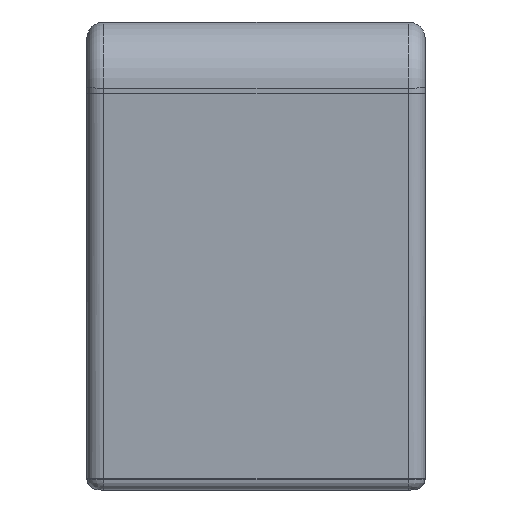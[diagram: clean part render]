
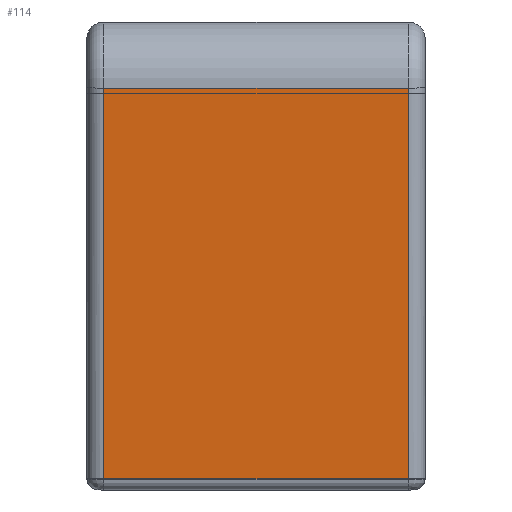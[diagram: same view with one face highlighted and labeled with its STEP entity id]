
A CAD part, left-side view. The second image highlights one B-rep face of the part: STEP entity #114.
In plain terms, the highlighted planar face has unit normal (-0.998, 0, -0.067).
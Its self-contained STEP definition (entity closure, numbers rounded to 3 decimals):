
#114 = ADVANCED_FACE ( 'NONE', ( #1111 ), #4128, .T. ) ;
#232 = AXIS2_PLACEMENT_3D ( 'NONE', #4129, #4130, #4131 ) ;
#484 = EDGE_CURVE ( 'NONE', #3369, #3370, #4890, .T. ) ;
#485 = EDGE_CURVE ( 'NONE', #3370, #3376, #4892, .T. ) ;
#486 = EDGE_CURVE ( 'NONE', #3376, #3375, #4894, .T. ) ;
#487 = EDGE_CURVE ( 'NONE', #3369, #3375, #4896, .T. ) ;
#913 = EDGE_LOOP ( 'NONE', ( #1612, #1613, #1614, #1615 ) ) ;
#1111 = FACE_OUTER_BOUND ( 'NONE', #913, .T. ) ;
#1612 = ORIENTED_EDGE ( 'NONE', *, *, #484, .T. ) ;
#1613 = ORIENTED_EDGE ( 'NONE', *, *, #485, .T. ) ;
#1614 = ORIENTED_EDGE ( 'NONE', *, *, #486, .T. ) ;
#1615 = ORIENTED_EDGE ( 'NONE', *, *, #487, .F. ) ;
#2818 = CARTESIAN_POINT ( 'NONE',  ( -395.388, 13.5, 28.632 ) ) ;
#2819 = CARTESIAN_POINT ( 'NONE',  ( -393.063, 13.5, -6.067 ) ) ;
#2826 = CARTESIAN_POINT ( 'NONE',  ( -395.388, -13.5, 28.632 ) ) ;
#2828 = CARTESIAN_POINT ( 'NONE',  ( -393.063, -13.5, -6.067 ) ) ;
#3080 = CARTESIAN_POINT ( 'NONE',  ( -393., 13.5, -7. ) ) ;
#3081 = DIRECTION ( 'NONE',  ( 0.067, 0., -0.998 ) ) ;
#3082 = CARTESIAN_POINT ( 'NONE',  ( -393.063, 15., -6.067 ) ) ;
#3083 = DIRECTION ( 'NONE',  ( 0., -1., 0. ) ) ;
#3084 = CARTESIAN_POINT ( 'NONE',  ( -395.388, -13.5, 28.632 ) ) ;
#3085 = DIRECTION ( 'NONE',  ( -0.067, 0., 0.998 ) ) ;
#3086 = CARTESIAN_POINT ( 'NONE',  ( -395.388, 15., 28.632 ) ) ;
#3087 = DIRECTION ( 'NONE',  ( 0., -1., 0. ) ) ;
#3369 = VERTEX_POINT ( 'NONE', #2818 ) ;
#3370 = VERTEX_POINT ( 'NONE', #2819 ) ;
#3375 = VERTEX_POINT ( 'NONE', #2826 ) ;
#3376 = VERTEX_POINT ( 'NONE', #2828 ) ;
#4128 = PLANE ( 'NONE',  #232 ) ;
#4129 = CARTESIAN_POINT ( 'NONE',  ( -393., 15., -7. ) ) ;
#4130 = DIRECTION ( 'NONE',  ( -0.998, 0., -0.067 ) ) ;
#4131 = DIRECTION ( 'NONE',  ( -0.067, 0., 0.998 ) ) ;
#4890 = LINE ( 'NONE', #3080, #4891 ) ;
#4891 = VECTOR ( 'NONE', #3081, 1000. ) ;
#4892 = LINE ( 'NONE', #3082, #4893 ) ;
#4893 = VECTOR ( 'NONE', #3083, 1000. ) ;
#4894 = LINE ( 'NONE', #3084, #4895 ) ;
#4895 = VECTOR ( 'NONE', #3085, 1000. ) ;
#4896 = LINE ( 'NONE', #3086, #4897 ) ;
#4897 = VECTOR ( 'NONE', #3087, 1000. ) ;
